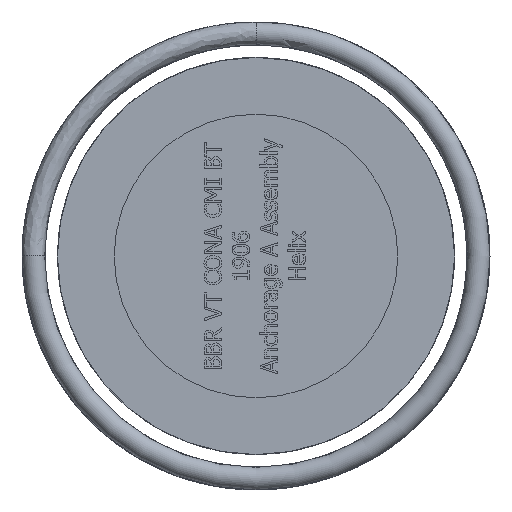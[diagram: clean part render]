
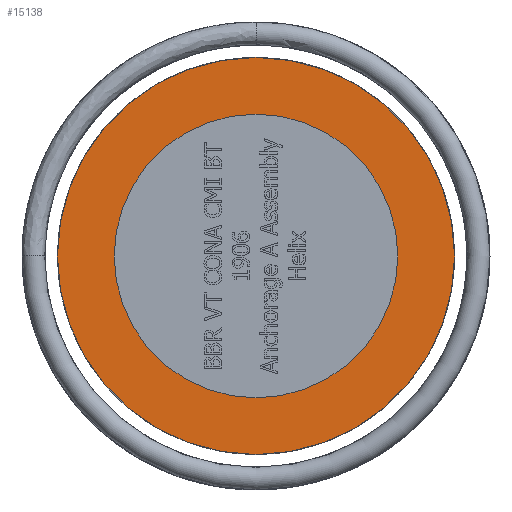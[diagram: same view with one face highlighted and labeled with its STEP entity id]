
A CAD part, left-side view. The second image highlights one B-rep face of the part: STEP entity #15138.
In plain terms, the highlighted planar face has unit normal (-1, 0, 0).
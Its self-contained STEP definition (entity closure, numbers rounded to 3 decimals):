
#2555=FACE_BOUND('',#4900,.T.);
#3250=PLANE('',#15850);
#4041=FACE_OUTER_BOUND('',#4899,.T.);
#4899=EDGE_LOOP('',(#13488));
#4900=EDGE_LOOP('',(#13489));
#5743=CIRCLE('',#15774,140.);
#5795=CIRCLE('',#15851,100.);
#7121=VERTEX_POINT('',#31171);
#7180=VERTEX_POINT('',#31894);
#9193=EDGE_CURVE('',#7121,#7121,#5743,.T.);
#9286=EDGE_CURVE('',#7180,#7180,#5795,.T.);
#13488=ORIENTED_EDGE('',*,*,#9193,.T.);
#13489=ORIENTED_EDGE('',*,*,#9286,.T.);
#15138=ADVANCED_FACE('',(#4041,#2555),#3250,.T.);
#15774=AXIS2_PLACEMENT_3D('',#31172,#18275,#18276);
#15850=AXIS2_PLACEMENT_3D('',#31893,#18440,#18441);
#15851=AXIS2_PLACEMENT_3D('',#31895,#18442,#18443);
#18275=DIRECTION('center_axis',(-1.,0.,0.));
#18276=DIRECTION('ref_axis',(0.,0.,1.));
#18440=DIRECTION('center_axis',(-1.,0.,0.));
#18441=DIRECTION('ref_axis',(0.,1.,0.));
#18442=DIRECTION('center_axis',(1.,0.,0.));
#18443=DIRECTION('ref_axis',(0.,1.,0.));
#31171=CARTESIAN_POINT('',(-161.995,0.,-140.));
#31172=CARTESIAN_POINT('Origin',(-161.995,0.,
0.));
#31893=CARTESIAN_POINT('Origin',(-161.995,0.,
111.));
#31894=CARTESIAN_POINT('',(-161.995,-100.,0.));
#31895=CARTESIAN_POINT('Origin',(-161.995,0.,
0.));
